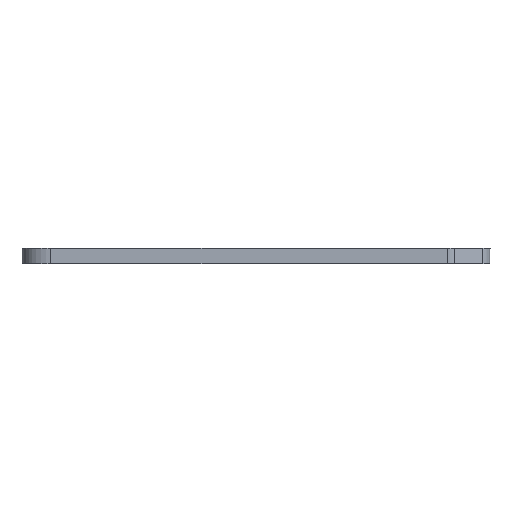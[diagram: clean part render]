
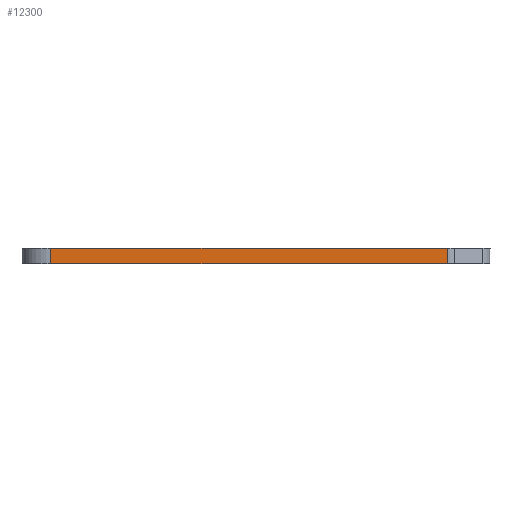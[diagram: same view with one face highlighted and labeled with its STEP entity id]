
A CAD part, front view. The second image highlights one B-rep face of the part: STEP entity #12300.
In plain terms, the highlighted planar face has unit normal (0, -1, 0).
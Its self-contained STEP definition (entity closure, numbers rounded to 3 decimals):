
#1490=CARTESIAN_POINT('',(-23.218,-38.2,
53.17));
#1500=VERTEX_POINT('',#1490);
#1530=CARTESIAN_POINT('',(11.446,-38.2,
53.17));
#1540=DIRECTION('',(-1.,0.,0.));
#1550=VECTOR('',#1540,1.);
#1560=LINE('',#1530,#1550);
#1570=CARTESIAN_POINT('',(32.107,-38.2,
53.17));
#1580=VERTEX_POINT('',#1570);
#1590=EDGE_CURVE('',#1580,#1500,#1560,.T.);
#3780=CARTESIAN_POINT('',(32.107,-38.2,55.37));
#3790=VERTEX_POINT('',#3780);
#3820=CARTESIAN_POINT('',(11.446,-38.2,55.37));
#3830=DIRECTION('',(1.,0.,0.));
#3840=VECTOR('',#3830,1.);
#3850=LINE('',#3820,#3840);
#3860=CARTESIAN_POINT('',(-23.218,-38.2,55.37));
#3870=VERTEX_POINT('',#3860);
#3880=EDGE_CURVE('',#3870,#3790,#3850,.T.);
#11970=CARTESIAN_POINT('',(-23.218,-38.2,
53.17));
#11980=DIRECTION('',(0.,0.,-1.));
#11990=VECTOR('',#11980,1.);
#12000=LINE('',#11970,#11990);
#12010=EDGE_CURVE('',#3870,#1500,#12000,.T.);
#12140=CARTESIAN_POINT('',(32.107,-38.2,
53.17));
#12150=DIRECTION('',(0.,-1.,0.));
#12160=DIRECTION('',(1.,0.,0.));
#12170=AXIS2_PLACEMENT_3D('',#12140,#12150,#12160);
#12180=PLANE('',#12170);
#12190=ORIENTED_EDGE('',*,*,#12010,.T.);
#12200=ORIENTED_EDGE('',*,*,#3880,.F.);
#12210=CARTESIAN_POINT('',(32.107,-38.2,53.17));
#12220=DIRECTION('',(0.,0.,1.));
#12230=VECTOR('',#12220,1.);
#12240=LINE('',#12210,#12230);
#12250=EDGE_CURVE('',#1580,#3790,#12240,.T.);
#12260=ORIENTED_EDGE('',*,*,#12250,.T.);
#12270=ORIENTED_EDGE('',*,*,#1590,.F.);
#12280=EDGE_LOOP('',(#12270,#12260,#12200,#12190));
#12290=FACE_OUTER_BOUND('',#12280,.T.);
#12300=ADVANCED_FACE('',(#12290),#12180,.T.);
